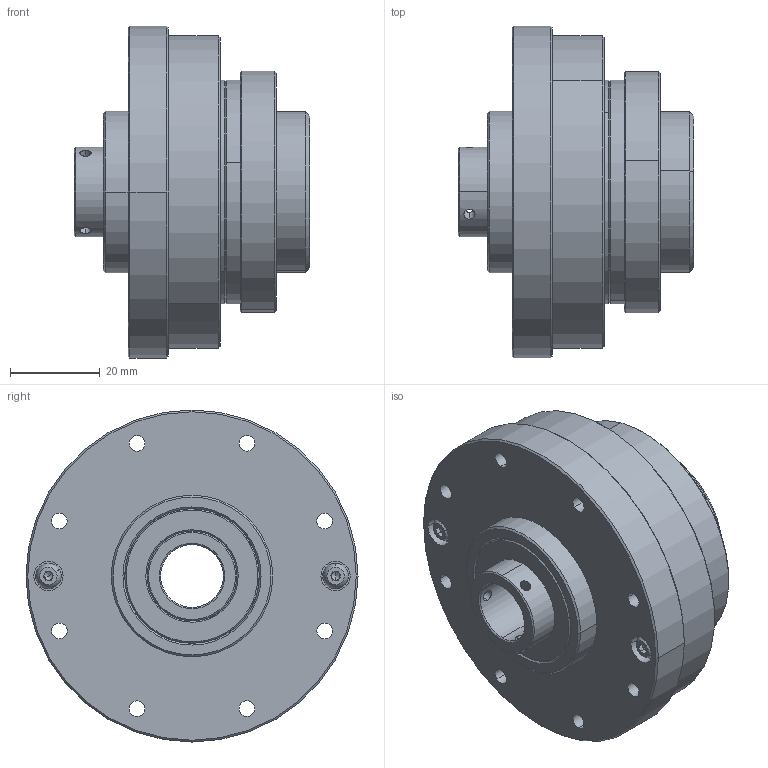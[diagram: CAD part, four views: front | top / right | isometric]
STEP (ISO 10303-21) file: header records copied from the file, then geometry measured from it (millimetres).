
FILE_DESCRIPTION (( 'STEP AP203' ), '1' );
FILE_NAME ('FHG-14-XXX-AH.STEP', '2020-12-29T09:22:19', ( '' ), ( '' ), 'SwSTEP 2.0', 'SolidWorks 2016', '' );
FILE_SCHEMA (( 'CONFIG_CONTROL_DESIGN' ));
Length unit declared in the file: millimetre
Products named in the file (1): FHG-14-XXX-AH
Bounding box: 52.5 x 74 x 74 mm (x, y, z)
Volume: 81261.7 mm3; surface area: 57732 mm2
Topology: 15 solids, 15 shells, 654 faces, 1450 edges, 858 vertices
Faces by surface type: cylinder 270, cone 216, plane 154, torus 14
Entity records: 18269 total; most frequent: DIRECTION 3476, CARTESIAN_POINT 3157, ORIENTED_EDGE 2820, AXIS2_PLACEMENT_3D 1423, EDGE_CURVE 1410, VERTEX_POINT 858, EDGE_LOOP 834, CIRCLE 768
